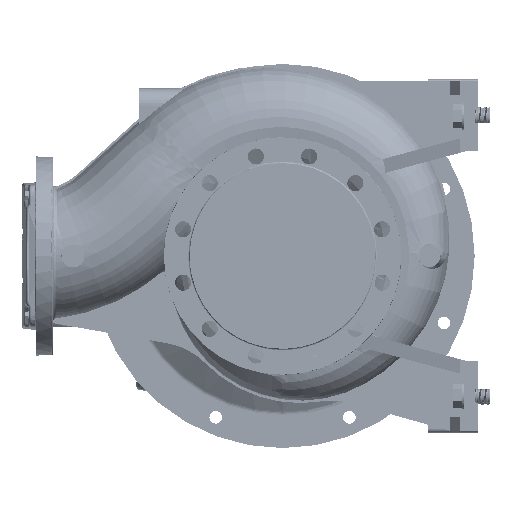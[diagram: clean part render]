
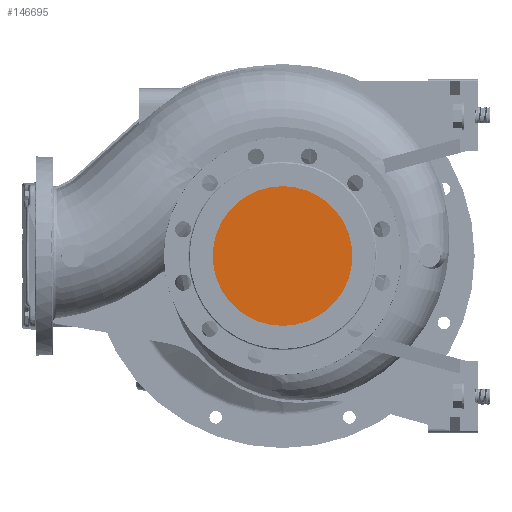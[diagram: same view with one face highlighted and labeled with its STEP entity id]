
A CAD part, left-side view. The second image highlights one B-rep face of the part: STEP entity #146695.
In plain terms, the highlighted planar face has unit normal (-1, 0, 0).
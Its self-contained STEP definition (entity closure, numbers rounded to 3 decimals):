
#9853 = CARTESIAN_POINT ( 'NONE',  ( -155., 0., 100. ) ) ;
#44883 = FACE_OUTER_BOUND ( 'NONE', #127668, .T. ) ;
#55929 = VERTEX_POINT ( 'NONE', #9853 ) ;
#56898 = EDGE_CURVE ( 'NONE', #144480, #55929, #110385, .T. ) ;
#59539 = CARTESIAN_POINT ( 'NONE',  ( -155., 0., -100. ) ) ;
#63768 = EDGE_CURVE ( 'NONE', #55929, #144480, #153528, .T. ) ;
#73551 = DIRECTION ( 'NONE',  ( 0., 0., -1. ) ) ;
#75155 = DIRECTION ( 'NONE',  ( -1., 0., 0. ) ) ;
#77100 = AXIS2_PLACEMENT_3D ( 'NONE', #84961, #187252, #73551 ) ;
#84961 = CARTESIAN_POINT ( 'NONE',  ( -155., 0., 0. ) ) ;
#99416 = ORIENTED_EDGE ( 'NONE', *, *, #56898, .F. ) ;
#100568 = CARTESIAN_POINT ( 'NONE',  ( -155., 0., 0. ) ) ;
#110385 = CIRCLE ( 'NONE', #77100, 100. ) ;
#116845 = DIRECTION ( 'NONE',  ( 0., -1., 0. ) ) ;
#127668 = EDGE_LOOP ( 'NONE', ( #99416, #167150 ) ) ;
#135671 = CARTESIAN_POINT ( 'NONE',  ( -155., 101.2, -101.2 ) ) ;
#139687 = AXIS2_PLACEMENT_3D ( 'NONE', #135671, #75155, #116845 ) ;
#140337 = DIRECTION ( 'NONE',  ( 0., 0., -1. ) ) ;
#144480 = VERTEX_POINT ( 'NONE', #59539 ) ;
#146695 = ADVANCED_FACE ( 'NONE', ( #44883 ), #175525, .T. ) ;
#153528 = CIRCLE ( 'NONE', #186856, 100. ) ;
#167150 = ORIENTED_EDGE ( 'NONE', *, *, #63768, .F. ) ;
#175525 = PLANE ( 'NONE',  #139687 ) ;
#183938 = DIRECTION ( 'NONE',  ( 1., 0., 0. ) ) ;
#186856 = AXIS2_PLACEMENT_3D ( 'NONE', #100568, #183938, #140337 ) ;
#187252 = DIRECTION ( 'NONE',  ( 1., 0., 0. ) ) ;
